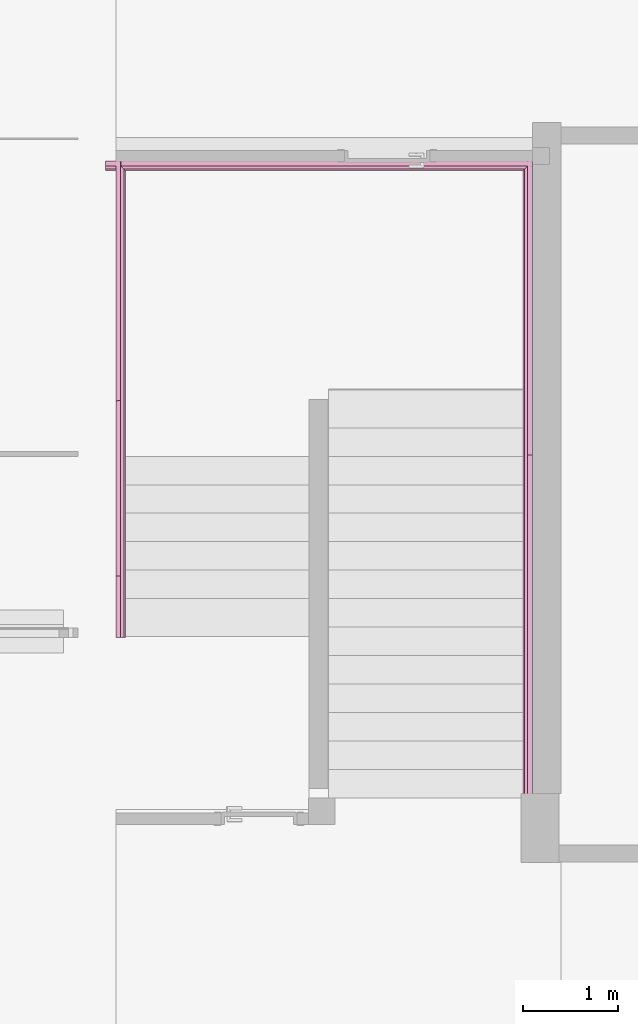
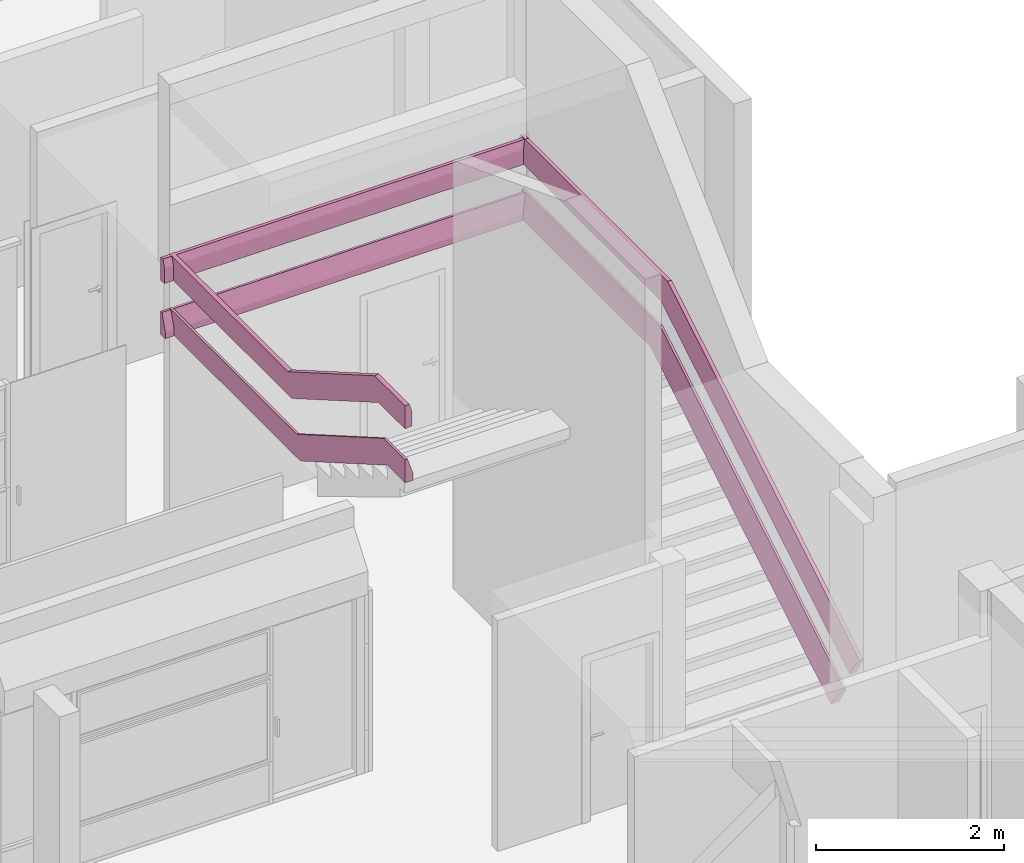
# One storey, part 117 of 117: 1 furniture element.
"""IFC4 building model written with IfcOpenShell, lengths in metres."""

from ifc_helpers import new_model, entity, si_unit, converted_unit, derived_unit, direction, frame, origin, place, context, subcontext, project, spatial, polygons, source, transform, mapped, material, type_object, type_shapes, element, save


model = new_model("IFC4")

# Units and contexts
model_context = context("Model", 3, precision=1e-05, world=origin(), true_north=direction((6.123031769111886e-17, 1.0)))
body_context = subcontext(model_context, "Body", "Model", "MODEL_VIEW")
ifc_project = project(units=[si_unit("LENGTHUNIT", "METRE"), si_unit("AREAUNIT", "SQUARE_METRE"), si_unit("VOLUMEUNIT", "CUBIC_METRE"), converted_unit("PLANEANGLEUNIT", "DEGREE", entity("IfcRatioMeasure", 0.017453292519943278), si_unit("PLANEANGLEUNIT", "RADIAN"), dimensions=[0, 0, 0, 0, 0, 0, 0]), si_unit("MASSUNIT", "GRAM", prefix="KILO"), derived_unit("MASSDENSITYUNIT", [(si_unit("MASSUNIT", "GRAM", prefix="KILO"), 1), (si_unit("LENGTHUNIT", "METRE"), -3)]), derived_unit("MOMENTOFINERTIAUNIT", [(si_unit("LENGTHUNIT", "METRE"), 4)]), si_unit("TIMEUNIT", "SECOND"), si_unit("FREQUENCYUNIT", "HERTZ"), si_unit("THERMODYNAMICTEMPERATUREUNIT", "DEGREE_CELSIUS"), derived_unit("THERMALTRANSMITTANCEUNIT", [(si_unit("MASSUNIT", "GRAM", prefix="KILO"), 1), (si_unit("THERMODYNAMICTEMPERATUREUNIT", "KELVIN"), -1), (si_unit("TIMEUNIT", "SECOND"), -3)]), derived_unit("VOLUMETRICFLOWRATEUNIT", [(si_unit("LENGTHUNIT", "METRE"), 3), (si_unit("TIMEUNIT", "SECOND"), -1)]), derived_unit("MASSFLOWRATEUNIT", [(si_unit("MASSUNIT", "GRAM", prefix="KILO"), 1), (si_unit("TIMEUNIT", "SECOND"), -1)]), derived_unit("ROTATIONALFREQUENCYUNIT", [(si_unit("TIMEUNIT", "SECOND"), -1)]), si_unit("ELECTRICCURRENTUNIT", "AMPERE"), si_unit("ELECTRICVOLTAGEUNIT", "VOLT"), si_unit("POWERUNIT", "WATT"), si_unit("FORCEUNIT", "NEWTON", prefix="KILO"), si_unit("ILLUMINANCEUNIT", "LUX"), si_unit("LUMINOUSFLUXUNIT", "LUMEN"), si_unit("LUMINOUSINTENSITYUNIT", "CANDELA"), derived_unit("USERDEFINED", [(si_unit("MASSUNIT", "GRAM", prefix="KILO"), -1), (si_unit("LENGTHUNIT", "METRE"), -2), (si_unit("TIMEUNIT", "SECOND"), 3), (si_unit("LUMINOUSFLUXUNIT", "LUMEN"), 1)]), derived_unit("SOUNDPOWERUNIT", [(si_unit("MASSUNIT", "GRAM", prefix="KILO"), 1), (si_unit("LENGTHUNIT", "METRE"), 2), (si_unit("TIMEUNIT", "SECOND"), -3)]), derived_unit("SOUNDPRESSUREUNIT", [(si_unit("MASSUNIT", "GRAM", prefix="KILO"), 1), (si_unit("LENGTHUNIT", "METRE"), -1), (si_unit("TIMEUNIT", "SECOND"), -2)]), derived_unit("LINEARVELOCITYUNIT", [(si_unit("LENGTHUNIT", "METRE"), 1), (si_unit("TIMEUNIT", "SECOND"), -1)]), si_unit("PRESSUREUNIT", "PASCAL"), derived_unit("USERDEFINED", [(si_unit("LENGTHUNIT", "METRE"), -2), (si_unit("MASSUNIT", "GRAM", prefix="KILO"), 1), (si_unit("TIMEUNIT", "SECOND"), -2)]), derived_unit("LINEARFORCEUNIT", [(si_unit("MASSUNIT", "GRAM", prefix="KILO"), 1), (si_unit("LENGTHUNIT", "METRE"), 1), (si_unit("TIMEUNIT", "SECOND"), -2), (si_unit("LENGTHUNIT", "METRE"), -1)]), derived_unit("PLANARFORCEUNIT", [(si_unit("MASSUNIT", "GRAM", prefix="KILO"), 1), (si_unit("LENGTHUNIT", "METRE"), 1), (si_unit("TIMEUNIT", "SECOND"), -2), (si_unit("LENGTHUNIT", "METRE"), -2)])], contexts=[model_context])

# Site, building, storey
site_placement = place(None, origin())
site = spatial("IfcSite", under=ifc_project, at=site_placement, Name="Superficie", CompositionType="ELEMENT")
building_placement = place(site_placement, origin())
building = spatial("IfcBuilding", under=site, at=building_placement, CompositionType="ELEMENT")
storey_placement = place(building_placement, origin())
storey = spatial("IfcBuildingStorey", under=building, at=storey_placement, Name="Nivel 0", CompositionType="ELEMENT", Elevation=0.0)

# Furniture
ifc_material = material(Name="Madera - Listel", Category="Madera")
furniture_type = type_object("IfcFurnitureType", Name="Pasamanos escalera6:Pasamanos escalera", AssemblyPlace="NOTDEFINED", PredefinedType="NOTDEFINED", material=ifc_material)
shared_shape = source(origin(), body_context, "Body", "Tessellation", [
    polygons([(4.500000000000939, 0.3649397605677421, 0.2571501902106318), (4.470000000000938, 0.3649397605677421, 0.25715019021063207), (4.400000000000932, 0.4756514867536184, 0.07289493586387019), (4.400000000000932, 0.5194511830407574, 1.5227819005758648e-15), (4.500000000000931, 0.519451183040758, 2.368771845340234e-16), (4.500000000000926, 7.226098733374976, 2.6115471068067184), (4.500000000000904, 7.226098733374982, 2.311547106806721), (4.400000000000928, 7.226098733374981, 2.3115471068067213), (4.400000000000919, 7.226098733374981, 2.39658877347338), (4.470000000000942, 7.226098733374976, 2.6115471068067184), (4.470000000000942, 4.283314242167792, 2.611547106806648), (4.500000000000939, 4.283314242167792, 2.611547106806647), (4.400000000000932, 4.342927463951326, 2.3965887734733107), (4.500000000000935, 4.366511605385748, 2.3115471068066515), (4.400000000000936, 4.366511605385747, 2.311547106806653)], [[[1, 2, 3, 4, 5]], [[6, 7, 8, 9, 10]], [[11, 12, 6, 10]], [[13, 11, 10, 9]], [[14, 15, 8, 7]], [[2, 1, 12, 11]], [[3, 2, 11, 13]], [[4, 3, 13, 9, 8, 15]], [[5, 4, 15, 14]], [[1, 5, 14, 7, 6, 12]]], closed=True),
    polygons([(4.500000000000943, 4.172384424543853, 3.011547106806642), (4.416156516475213, 4.16989573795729, 3.0205210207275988), (4.416156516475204, 7.22609873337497, 3.0205210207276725), (4.500000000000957, 7.226098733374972, 3.0115471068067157), (4.448588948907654, 4.0868108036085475, 3.320115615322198), (4.500000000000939, 4.089187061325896, 3.311547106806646), (4.500000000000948, 7.2260987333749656, 3.311547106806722), (4.448588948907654, 7.2260987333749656, 3.320115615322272), (4.416156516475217, 4.114430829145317, 3.2205210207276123), (4.416156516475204, 7.226098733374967, 3.2205210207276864), (4.416156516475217, 0.051295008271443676, 0.7791427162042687), (4.448588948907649, 5.414335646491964e-16, 0.8645119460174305), (4.416156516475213, 0.15430262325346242, 0.6077092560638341), (4.500000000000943, 0.1589245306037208, 0.6000171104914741), (4.500000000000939, 0.004413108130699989, 0.8571673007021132)], [[[1, 2, 3, 4]], [[5, 6, 7, 8]], [[9, 5, 8, 10]], [[11, 12, 5, 9]], [[13, 11, 9, 10, 3, 2]], [[14, 13, 2, 1]], [[15, 14, 1, 4, 7, 6]], [[12, 15, 6, 5]], [[8, 7, 4, 3, 10]], [[12, 11, 13, 14, 15]]], closed=True),
    polygons([(0.11000000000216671, 7.1786844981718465, 2.614833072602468), (0.14000000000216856, 7.1786844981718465, 2.6148330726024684), (0.21000000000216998, 7.178684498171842, 2.3998747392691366), (0.21000000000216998, 7.17868449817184, 2.3148330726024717), (0.11000000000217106, 7.17868449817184, 2.314833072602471), (0.11000000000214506, 2.1660987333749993, 3.681115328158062), (0.11000000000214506, 2.1660987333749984, 3.3811153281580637), (0.21000000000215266, 2.1660987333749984, 3.3811153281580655), (0.21000000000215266, 2.1660987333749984, 3.466156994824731), (0.14000000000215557, 2.1660987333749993, 3.6811153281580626), (0.11000000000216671, 4.390140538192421, 2.3148330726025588), (0.11000000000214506, 2.543285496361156, 3.3811153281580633), (0.11000000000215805, 2.623670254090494, 3.6811153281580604), (0.11000000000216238, 4.470525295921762, 2.614833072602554), (0.14000000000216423, 4.470525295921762, 2.6148330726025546), (0.21000000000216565, 4.412927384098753, 2.3998747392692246), (0.210000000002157, 2.5660723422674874, 3.4661569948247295), (0.210000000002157, 2.5432854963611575, 3.3811153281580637), (0.21000000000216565, 4.390140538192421, 2.3148330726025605), (0.14000000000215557, 2.623670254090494, 3.681115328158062)], [[[1, 2, 3, 4, 5]], [[6, 7, 8, 9, 10]], [[1, 5, 11, 12, 7, 6, 13, 14]], [[2, 1, 14, 15]], [[3, 2, 15, 16]], [[4, 3, 16, 17, 9, 8, 18, 19]], [[5, 4, 19, 11]], [[15, 14, 13, 20]], [[16, 15, 20, 17]], [[11, 19, 18, 12]], [[20, 13, 6, 10]], [[17, 20, 10, 9]], [[12, 18, 8, 7]]], closed=True),
    polygons([(0.19384348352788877, 7.178684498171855, 3.0238069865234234), (0.19384348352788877, 7.17868449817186, 3.223806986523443), (0.19384348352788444, 4.633699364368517, 3.2238069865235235), (0.19384348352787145, 2.786844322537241, 4.290089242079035), (0.19384348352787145, 2.166098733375, 4.290089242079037), (0.19384348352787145, 2.1660987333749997, 4.090089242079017), (0.19384348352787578, 2.73325448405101, 4.0900892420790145), (0.19384348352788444, 4.580109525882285, 3.0238069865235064), (0.11000000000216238, 7.178684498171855, 3.0148330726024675), (0.11000000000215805, 4.577704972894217, 3.0148330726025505), (0.16141105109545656, 7.178684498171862, 3.3234015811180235), (0.11000000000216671, 7.178684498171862, 3.314833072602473), (0.11000000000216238, 4.658089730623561, 3.314833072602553), (0.16141105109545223, 4.660385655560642, 3.323401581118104), (0.11000000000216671, 2.730849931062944, 4.081115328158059), (0.11000000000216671, 2.1660987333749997, 4.08111532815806), (0.11000000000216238, 2.1660987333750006, 4.381115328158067), (0.11000000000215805, 2.811234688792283, 4.3811153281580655), (0.16141105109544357, 2.8135306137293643, 4.3896838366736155), (0.16141105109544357, 2.1660987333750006, 4.389683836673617)], [[[1, 2, 3, 4, 5, 6, 7, 8]], [[9, 1, 8, 10]], [[11, 12, 13, 14]], [[2, 11, 14, 3]], [[12, 9, 10, 15, 16, 17, 18, 13]], [[3, 14, 19, 4]], [[10, 8, 7, 15]], [[14, 13, 18, 19]], [[4, 19, 20, 5]], [[15, 7, 6, 16]], [[19, 18, 17, 20]], [[20, 17, 16, 6, 5]], [[11, 2, 1, 9, 12]]], closed=True),
    polygons([(4.500000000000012, 7.183684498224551, 2.6102181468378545), (4.500000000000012, 7.153684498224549, 2.610218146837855), (4.5000000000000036, 7.083684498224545, 2.3952598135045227), (4.5000000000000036, 7.083684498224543, 2.310218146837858), (4.5000000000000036, 7.183684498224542, 2.310218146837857), (1.2994405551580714e-14, 7.183684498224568, 2.6102181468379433), (4.331468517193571e-15, 7.183684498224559, 2.3102181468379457), (4.331468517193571e-15, 7.08368449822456, 2.310218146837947), (4.331468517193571e-15, 7.083684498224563, 2.3952598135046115), (1.2994405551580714e-14, 7.153684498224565, 2.6102181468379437)], [[[1, 2, 3, 4, 5]], [[6, 7, 8, 9, 10]], [[2, 1, 6, 10]], [[3, 2, 10, 9]], [[5, 4, 8, 7]], [[1, 5, 7, 6]], [[4, 3, 9, 8]]], closed=True),
    polygons([(4.500000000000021, 7.183684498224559, 3.010218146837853), (4.500000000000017, 7.0998410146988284, 3.01919206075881), (2.1657342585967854e-14, 7.099841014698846, 3.0191920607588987), (1.7325874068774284e-14, 7.183684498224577, 3.010218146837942), (4.500000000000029, 7.132273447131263, 3.318786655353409), (4.500000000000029, 7.183684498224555, 3.3102181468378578), (3.0320279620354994e-14, 7.183684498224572, 3.310218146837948), (3.0320279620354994e-14, 7.13227344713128, 3.318786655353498), (4.500000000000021, 7.099841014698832, 3.2191920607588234), (2.5988811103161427e-14, 7.099841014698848, 3.2191920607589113)], [[[1, 2, 3, 4]], [[5, 6, 7, 8]], [[9, 5, 8, 10]], [[2, 9, 10, 3]], [[6, 1, 4, 7]], [[8, 7, 4, 3, 10]], [[5, 9, 2, 1, 6]]], closed=True),
])
type_shapes(furniture_type, [shared_shape])
furniture_placement = place(storey_placement, frame((20.8767990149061, -3.9378552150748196, 0.21739590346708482)))
element("IfcFurniture", 1, at=furniture_placement, inside=storey, type_object=furniture_type, material=ifc_material, Name="Pasamanos escalera6:Pasamanos escalera", ObjectType="Pasamanos escalera6:Pasamanos escalera", PredefinedType="NOTDEFINED", context=body_context, shape_type="MappedRepresentation", body=[
    mapped(shared_shape, transform((0.0, 0.0, 0.0), scale=1.0)),
])

save(model, "model.ifc")
